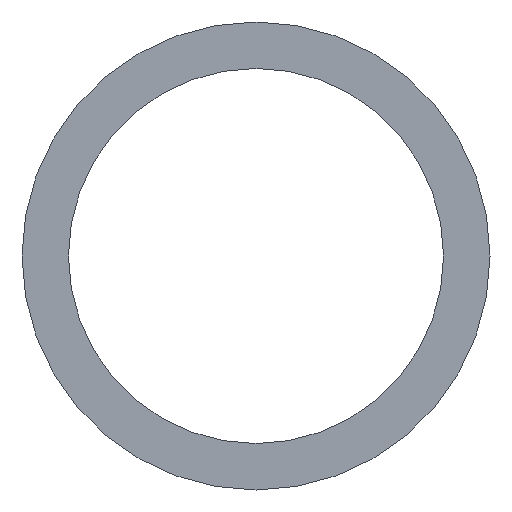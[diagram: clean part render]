
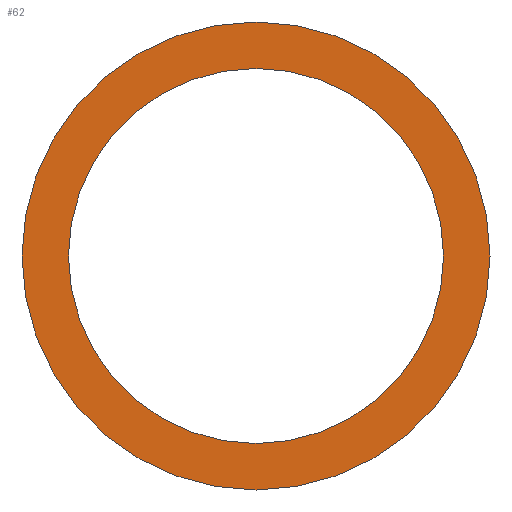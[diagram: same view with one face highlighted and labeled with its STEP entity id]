
A CAD part, front view. The second image highlights one B-rep face of the part: STEP entity #62.
In plain terms, the highlighted planar face has unit normal (0, -1, 0).
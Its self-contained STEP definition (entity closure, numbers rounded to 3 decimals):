
#20=PLANE('',#83);
#26=ORIENTED_EDGE('',*,*,#30,.T.);
#27=ORIENTED_EDGE('',*,*,#32,.F.);
#30=EDGE_CURVE('',#34,#34,#38,.T.);
#32=EDGE_CURVE('',#36,#36,#40,.T.);
#34=VERTEX_POINT('',#106);
#36=VERTEX_POINT('',#111);
#38=CIRCLE('',#78,278.5);
#40=CIRCLE('',#81,347.5);
#46=EDGE_LOOP('',(#26));
#47=EDGE_LOOP('',(#27));
#54=FACE_BOUND('',#46,.T.);
#55=FACE_BOUND('',#47,.T.);
#62=ADVANCED_FACE('',(#54,#55),#20,.F.);
#78=AXIS2_PLACEMENT_3D('',#105,#89,#90);
#81=AXIS2_PLACEMENT_3D('',#110,#95,#96);
#83=AXIS2_PLACEMENT_3D('',#114,#99,#100);
#89=DIRECTION('',(0.,1.,0.));
#90=DIRECTION('',(1.,0.,0.));
#95=DIRECTION('',(0.,1.,0.));
#96=DIRECTION('',(1.,0.,0.));
#99=DIRECTION('',(0.,1.,0.));
#100=DIRECTION('',(0.,0.,1.));
#105=CARTESIAN_POINT('',(0.,-1.5,0.));
#106=CARTESIAN_POINT('',(278.5,-1.5,0.));
#110=CARTESIAN_POINT('',(0.,-1.5,0.));
#111=CARTESIAN_POINT('',(347.5,-1.5,0.));
#114=CARTESIAN_POINT('',(0.,-1.5,0.));
